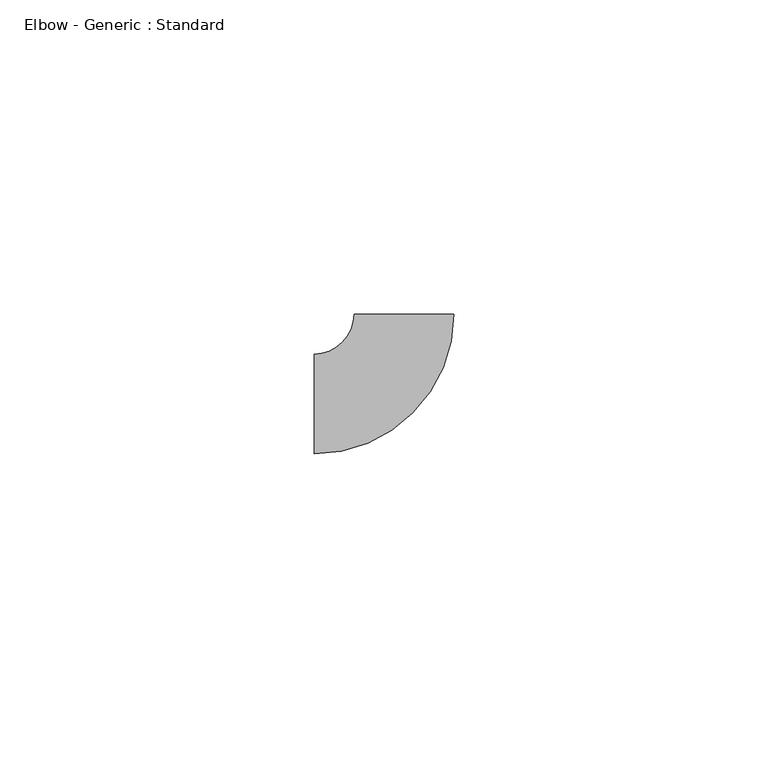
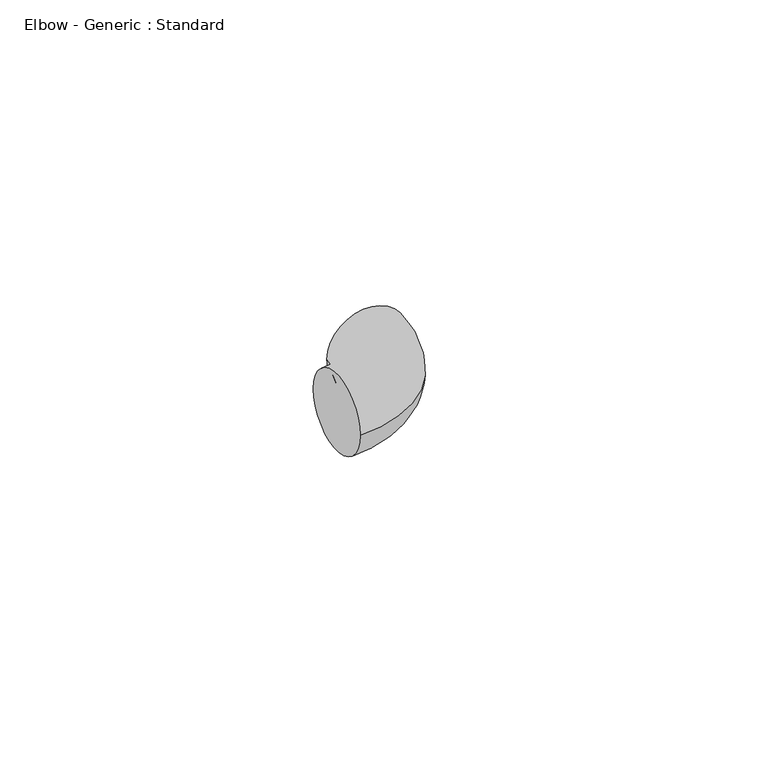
"""IFC4 building model written with IfcOpenShell, lengths in millimetres: pipe fitting geometry, Elbow - Generic : Standard."""

import ifcopenshell
import ifcopenshell.guid

model = None  # the IFC model being written
_history = None  # IfcOwnerHistory: only IFC2X3 demands one
_inside = {}  # id of a spatial element -> (the spatial element, [elements in it])
_under = {}  # id of a project, library or spatial element -> (it, [spatial elements below it])
_declared = {}  # id of a project -> (the project, [libraries it declares])
_typed = {}  # id of a type object -> (the type object, [elements of that type])
_made_of = {}  # id of a material, layer set ... -> (it, [elements and type objects made of it])


def new_model(schema):
    """Start an empty IFC model of exactly this schema.

    Asked for "IFC4X3", IfcOpenShell would pick the latest addendum, in which some entities
    have other attributes; the version numbers below select the first issue.
    IFC2X3 requires an IfcOwnerHistory on every rooted entity: one is made here for all.
    """
    global model, _history
    if schema == "IFC4X3":
        model = ifcopenshell.file(schema_version=(4, 3, 0, 0))
    else:
        model = ifcopenshell.file(schema=schema)
    _inside.clear()
    _under.clear()
    _declared.clear()
    _typed.clear()
    _made_of.clear()
    _history = None
    if model.schema == "IFC2X3":
        org = make("IfcOrganization", Name="unknown")
        user = make(
            "IfcPersonAndOrganization",
            ThePerson=make("IfcPerson", FamilyName="unknown"),
            TheOrganization=org,
        )
        app = make(
            "IfcApplication",
            ApplicationDeveloper=org,
            Version="unknown",
            ApplicationFullName="unknown",
            ApplicationIdentifier="unknown",
        )
        _history = make(
            "IfcOwnerHistory",
            OwningUser=user,
            OwningApplication=app,
            ChangeAction="ADDED",
            CreationDate=0,
        )
    return model


def make(cls, **values):
    """One entity of the class cls with the attributes given. An attribute that is None is left unset."""
    return model.create_entity(
        cls, **{name: value for name, value in values.items() if value is not None}
    )


def rooted(cls, **values):
    """An entity with a GlobalId (a new one), such as an element, a storey or a relation."""
    return make(cls, GlobalId=ifcopenshell.guid.new(), OwnerHistory=_history, **values)


def si_unit(unit_type, name, prefix=None):
    """IfcSIUnit, for example si_unit("LENGTHUNIT", "METRE", prefix="MILLI")."""
    return make("IfcSIUnit", UnitType=unit_type, Prefix=prefix, Name=name)


def assignment(units):
    """IfcUnitAssignment: the units of a project."""
    return None if units is None else make("IfcUnitAssignment", Units=units)


def point(xyz):
    """IfcCartesianPoint."""
    return None if xyz is None else make("IfcCartesianPoint", Coordinates=xyz)


def direction(xyz):
    """IfcDirection."""
    return None if xyz is None else make("IfcDirection", DirectionRatios=xyz)


def frame(location, z_axis=None, x_axis=None):
    """IfcAxis2Placement3D, a coordinate frame: its origin and axes. An axis left out is left unset."""
    return make(
        "IfcAxis2Placement3D",
        Location=point(location),
        Axis=direction(z_axis),
        RefDirection=direction(x_axis),
    )


def origin():
    """The frame at (0, 0, 0) with its axes left unset."""
    return frame((0.0, 0.0, 0.0))


def place(relative_to, where):
    """IfcLocalPlacement: puts the frame where relative to a parent placement (None: the world)."""
    return make(
        "IfcLocalPlacement", PlacementRelTo=relative_to, RelativePlacement=where
    )


def context(
    kind, dimensions, precision=None, world=None, true_north=None, identifier=None
):
    """IfcGeometricRepresentationContext, for example the 3D "Model" context."""
    return make(
        "IfcGeometricRepresentationContext",
        ContextIdentifier=identifier,
        ContextType=kind,
        CoordinateSpaceDimension=dimensions,
        Precision=precision,
        WorldCoordinateSystem=world,
        TrueNorth=true_north,
    )


def project(units=None, contexts=None):
    """IfcProject with its units and contexts."""
    return rooted(
        "IfcProject",
        Name="project",
        RepresentationContexts=contexts,
        UnitsInContext=assignment(units),
    )


def spatial(cls, under=None, at=None, **own):
    """A site, building, storey or space (cls), placed at a placement, below another one or the project."""
    s = rooted(cls, ObjectPlacement=at, **own)
    if under is not None:
        _under.setdefault(under.id(), (under, []))[1].append(s)
    return s


def circle_curve(where, radius):
    """IfcCircle in the frame where."""
    return make("IfcCircle", Position=where, Radius=radius)


def ellipse_curve(where, semi_axis1, semi_axis2):
    """IfcEllipse in the frame where."""
    return make(
        "IfcEllipse", Position=where, SemiAxis1=semi_axis1, SemiAxis2=semi_axis2
    )


def trimmed(basis, trim1, trim2, sense, master):
    """IfcTrimmedCurve: the piece of a basis curve between two trims."""
    return make(
        "IfcTrimmedCurve",
        BasisCurve=basis,
        Trim1=trim1,
        Trim2=trim2,
        SenseAgreement=sense,
        MasterRepresentation=master,
    )


def shape(context_of_items, identifier, shape_type, items):
    """IfcShapeRepresentation: the items that make up one representation, for example the "Body"."""
    return make(
        "IfcShapeRepresentation",
        ContextOfItems=context_of_items,
        RepresentationIdentifier=identifier,
        RepresentationType=shape_type,
        Items=items,
    )


def source(mapping_origin, context_of_items, identifier, shape_type, items):
    """IfcRepresentationMap: a shape defined once, which mapped items show again and again."""
    return make(
        "IfcRepresentationMap",
        MappingOrigin=mapping_origin,
        MappedRepresentation=shape(context_of_items, identifier, shape_type, items),
    )


def transform(
    local_origin,
    x_axis=None,
    y_axis=None,
    z_axis=None,
    scale=None,
    scale2=None,
    scale3=None,
    uniform=True,
):
    """IfcCartesianTransformationOperator3D, or its non-uniform kind. x_axis, y_axis, z_axis: its Axis1, 2, 3."""
    if uniform:
        return make(
            "IfcCartesianTransformationOperator3D",
            Axis1=direction(x_axis),
            Axis2=direction(y_axis),
            LocalOrigin=point(local_origin),
            Scale=scale,
            Axis3=direction(z_axis),
        )
    return make(
        "IfcCartesianTransformationOperator3DnonUniform",
        Axis1=direction(x_axis),
        Axis2=direction(y_axis),
        LocalOrigin=point(local_origin),
        Scale=scale,
        Axis3=direction(z_axis),
        Scale2=scale2,
        Scale3=scale3,
    )


def mapped(mapping_source, mapping_target):
    """IfcMappedItem: shows the shape of a source again, moved by a transform."""
    return make(
        "IfcMappedItem", MappingSource=mapping_source, MappingTarget=mapping_target
    )


def made_of(thing, what):
    """Note that an element or type object is made of a material, layer set ...; save() writes the relation."""
    if what is not None:
        _made_of.setdefault(what.id(), (what, []))[1].append(thing)
    return thing


def element(
    cls,
    number,
    at=None,
    inside=None,
    cuts=None,
    type_object=None,
    material=None,
    context=None,
    identifier="Body",
    shape_type=None,
    held_by="IfcProductDefinitionShape",
    body=None,
    shapes=None,
    **own,
):
    """One element of the class cls, such as IfcWall. Its Tag is "e" and its number.

    at: its placement. inside: the storey or other place that contains it. cuts: it is an
    opening in that element (IfcRelVoidsElement). A single representation is given by context,
    identifier, shape_type and body (its items); several are given by shapes. held_by: the class
    of the entity that holds the representations. save() writes the other relations.
    """
    e = rooted(cls, Tag="e%d" % number, ObjectPlacement=at, **own)
    if body is not None:
        shapes = [shape(context, identifier, shape_type, body)]
    if shapes is not None:
        e.Representation = make(held_by, Representations=shapes)
    if inside is not None:
        _inside.setdefault(inside.id(), (inside, []))[1].append(e)
    if cuts is not None:
        rooted(
            "IfcRelVoidsElement", RelatingBuildingElement=cuts, RelatedOpeningElement=e
        )
    if type_object is not None:
        _typed.setdefault(type_object.id(), (type_object, []))[1].append(e)
    return made_of(e, material)


def aggregate(whole, parts):
    """IfcRelAggregates: a whole, such as a stair, and the parts it consists of."""
    return rooted("IfcRelAggregates", RelatingObject=whole, RelatedObjects=parts)


def save(model, path):
    """Write the relations noted so far, then the file.

    IfcRelAggregates (storeys below a building ...), IfcRelContainedInSpatialStructure (elements
    in a storey), IfcRelDefinesByType, IfcRelAssociatesMaterial and IfcRelDeclares: one each for
    every whole, place, type object, material and project.
    """
    for whole, parts in _under.values():
        aggregate(whole, parts)
    for where, things in _inside.values():
        rooted(
            "IfcRelContainedInSpatialStructure",
            RelatedElements=things,
            RelatingStructure=where,
        )
    for kind, things in _typed.values():
        rooted("IfcRelDefinesByType", RelatedObjects=things, RelatingType=kind)
    for what, things in _made_of.values():
        rooted("IfcRelAssociatesMaterial", RelatedObjects=things, RelatingMaterial=what)
    for by, libraries in _declared.values():
        rooted("IfcRelDeclares", RelatingContext=by, RelatedDefinitions=libraries)
    model.write(path)


def plane_surface(at):
    """IfcPlane: the flat surface through the origin of the frame at, square to its z axis."""
    return make("IfcPlane", Position=at)


def revolved_surface(curve, axis_point, axis_direction):
    """IfcSurfaceOfRevolution: the curve turned about the line through axis_point along axis_direction."""
    return make(
        "IfcSurfaceOfRevolution",
        SweptCurve=make("IfcArbitraryOpenProfileDef", ProfileType="CURVE", Curve=curve),
        AxisPosition=make("IfcAxis1Placement", Location=point(axis_point), Axis=direction(axis_direction)),
    )


def advanced_brep(points, edges, surfaces, faces):
    """IfcAdvancedBrep: a solid bounded by faces that lie on surfaces and meet in shared edges.

    An edge is (start, end): straight between two places in points (the first is 0);
    or (start, end, curve); or (start, end, curve, False) where it runs against its curve.
    A face is (place in surfaces, loops), or (place, loops, False) where it looks against
    its surface's normal. A loop lists edges by number (the first is 1), with a minus sign
    where the edge is run from its end to its start. The first loop is the outer one.
    """
    corners = [point(p) for p in points]
    vertices = [make("IfcVertexPoint", VertexGeometry=c) for c in corners]
    made = []
    for start, end, *more in edges:
        made.append(
            make(
                "IfcEdgeCurve",
                EdgeStart=vertices[start],
                EdgeEnd=vertices[end],
                EdgeGeometry=more[0] if more else make("IfcPolyline", Points=[corners[start], corners[end]]),
                SameSense=more[1] if len(more) > 1 else True,
            )
        )
    hull = []
    for where, loops, *sense in faces:
        bounds = []
        for j, loop in enumerate(loops):
            ring = [make("IfcOrientedEdge", EdgeElement=made[abs(k) - 1], Orientation=k > 0) for k in loop]
            bounds.append(
                make(
                    "IfcFaceOuterBound" if j == 0 else "IfcFaceBound",
                    Bound=make("IfcEdgeLoop", EdgeList=ring),
                    Orientation=True,
                )
            )
        hull.append(make("IfcAdvancedFace", Bounds=bounds, FaceSurface=surfaces[where], SameSense=sense[0] if sense else True))
    return make("IfcAdvancedBrep", Outer=make("IfcClosedShell", CfsFaces=hull))


def elbow_generic_standard_339fed54(model_context):
    return source(origin(), model_context, "Body", "AdvancedBrep", [
        advanced_brep(
        [(-14.2875004, -7.9375, 0.0), (-14.2875004, 7.9375, 0.0), (7.9374996, 14.2875006, 0.0), (-7.9375004, 14.2875002, 0.0)],
        [
            (0, 1, circle_curve(frame((-14.2875004, 0.0, 0.0), z_axis=(-1.0, 0.0, 0.0), x_axis=(0.0, 1.0, 0.0)), 7.9375)),
            (1, 0, circle_curve(frame((-14.2875004, 0.0, 0.0), z_axis=(-1.0, 0.0, 0.0), x_axis=(0.0, 1.0, 0.0)), 7.9375)),
            (2, 3, circle_curve(frame((-4e-07, 14.2875004, 0.0), z_axis=(-2.6880093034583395e-08, 0.9999999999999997, 0.0), x_axis=(-0.9999999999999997, -2.6880093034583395e-08, 0.0)), 7.9375)),
            (3, 2, circle_curve(frame((-4e-07, 14.2875004, 0.0), z_axis=(-2.6880093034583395e-08, 0.9999999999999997, 0.0), x_axis=(-0.9999999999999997, -2.6880093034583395e-08, 0.0)), 7.9375)),
            (3, 1, circle_curve(frame((-14.2875004, 14.2875, 0.0), z_axis=(0.0, 0.0, -1.0), x_axis=(0.0, -1.0, 0.0)), 6.35)),
            (0, 2, circle_curve(frame((-14.2875004, 14.2875, 0.0), z_axis=(0.0, 0.0, 1.0), x_axis=(0.0, -1.0, 0.0)), 22.225)),
        ],
        [
            plane_surface(frame((-14.2875004, 0.0, 0.0), z_axis=(-1.0, 0.0, 0.0), x_axis=(0.0, 0.0, 1.0))),
            plane_surface(frame((-4e-07, 14.2875004, 0.0), z_axis=(-2.6880092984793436e-08, 0.9999999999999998, 0.0), x_axis=(0.0, 0.0, 1.0))),
            revolved_surface(trimmed(ellipse_curve(frame((-14.2875004, 0.0, 0.0), z_axis=(-1.0, 0.0, 0.0), x_axis=(0.0, 1.0, 0.0)), 7.9375, 7.9375), [point((-14.2875004, -7.9375, 0.0))], [point((-14.2875004, 7.9375, 0.0))], True, "CARTESIAN"), (-14.2875004, 14.2875, 0.0), (0.0, 0.0, 1.0)),
            revolved_surface(trimmed(ellipse_curve(frame((-14.2875004, 0.0, 0.0), z_axis=(-1.0, 0.0, 0.0), x_axis=(0.0, 1.0, 0.0)), 7.9375, 7.9375), [point((-14.2875004, 7.9375, 0.0))], [point((-14.2875004, -7.9375, 0.0))], True, "CARTESIAN"), (-14.2875004, 14.2875, 0.0), (0.0, 0.0, 1.0)),
        ],
        [
            (0, [[1, 2]]),
            (1, [[3, 4]]),
            (2, [[5, -1, 6, -4]]),
            (3, [[-6, -2, -5, -3]]),
        ],
    ),
    ])


if __name__ == "__main__":
    model = new_model("IFC4")
    model_context = context("Model", 3, world=origin())
    ifc_project = project(units=[si_unit("LENGTHUNIT", "METRE", prefix="MILLI")], contexts=[model_context])
    site = spatial("IfcSite", under=ifc_project)
    building = spatial("IfcBuilding", under=site)
    placement = place(None, origin())
    elbow_generic_standard_shape = elbow_generic_standard_339fed54(model_context)
    element("IfcPipeFitting", 1, ObjectType="Elbow - Generic : Standard", at=placement, inside=building, context=model_context, shape_type="MappedRepresentation", body=[
        mapped(elbow_generic_standard_shape, transform((0.0, 0.0, 0.0), x_axis=(1.0, 0.0, 0.0), y_axis=(0.0, 1.0, 0.0), z_axis=(0.0, 0.0, 1.0))),
    ])
    save(model, "model.ifc")
